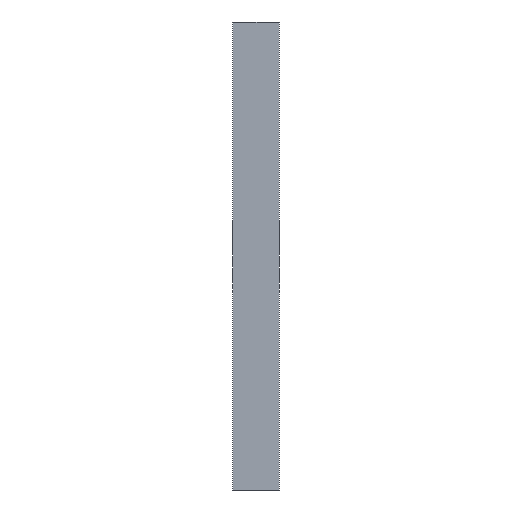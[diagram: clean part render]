
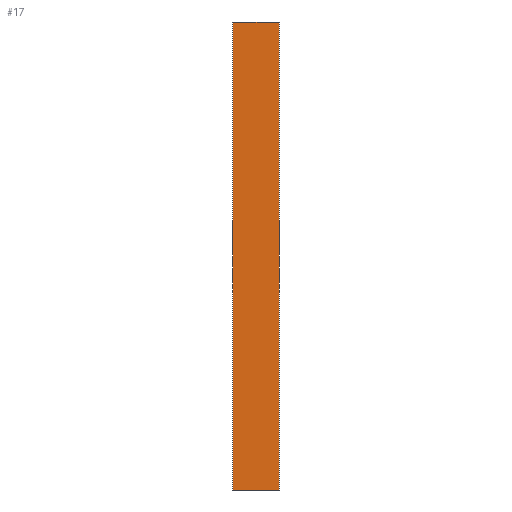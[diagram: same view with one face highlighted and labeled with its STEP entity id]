
A CAD part, left-side view. The second image highlights one B-rep face of the part: STEP entity #17.
In plain terms, the highlighted planar face has unit normal (-1, 0, 0).
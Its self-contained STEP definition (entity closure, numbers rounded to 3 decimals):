
#17 = ADVANCED_FACE('',(#18),#32,.F.);
#18 = FACE_BOUND('',#19,.F.);
#19 = EDGE_LOOP('',(#20,#55,#83,#111));
#20 = ORIENTED_EDGE('',*,*,#21,.F.);
#21 = EDGE_CURVE('',#22,#24,#26,.T.);
#22 = VERTEX_POINT('',#23);
#23 = CARTESIAN_POINT('',(-250.,62.,95.));
#24 = VERTEX_POINT('',#25);
#25 = CARTESIAN_POINT('',(-250.,62.,125.));
#26 = SURFACE_CURVE('',#27,(#31,#43),.PCURVE_S1.);
#27 = LINE('',#28,#29);
#28 = CARTESIAN_POINT('',(-250.,62.,95.));
#29 = VECTOR('',#30,1.);
#30 = DIRECTION('',(0.,0.,1.));
#31 = PCURVE('',#32,#37);
#32 = PLANE('',#33);
#33 = AXIS2_PLACEMENT_3D('',#34,#35,#36);
#34 = CARTESIAN_POINT('',(-250.,62.,95.));
#35 = DIRECTION('',(1.,0.,0.));
#36 = DIRECTION('',(0.,0.,1.));
#37 = DEFINITIONAL_REPRESENTATION('',(#38),#42);
#38 = LINE('',#39,#40);
#39 = CARTESIAN_POINT('',(0.,0.));
#40 = VECTOR('',#41,1.);
#41 = DIRECTION('',(1.,0.));
#42 = ( GEOMETRIC_REPRESENTATION_CONTEXT(2) 
PARAMETRIC_REPRESENTATION_CONTEXT() REPRESENTATION_CONTEXT('2D SPACE',''
  ) );
#43 = PCURVE('',#44,#49);
#44 = PLANE('',#45);
#45 = AXIS2_PLACEMENT_3D('',#46,#47,#48);
#46 = CARTESIAN_POINT('',(-250.,62.,95.));
#47 = DIRECTION('',(0.,1.,0.));
#48 = DIRECTION('',(0.,0.,1.));
#49 = DEFINITIONAL_REPRESENTATION('',(#50),#54);
#50 = LINE('',#51,#52);
#51 = CARTESIAN_POINT('',(0.,0.));
#52 = VECTOR('',#53,1.);
#53 = DIRECTION('',(1.,0.));
#54 = ( GEOMETRIC_REPRESENTATION_CONTEXT(2) 
PARAMETRIC_REPRESENTATION_CONTEXT() REPRESENTATION_CONTEXT('2D SPACE',''
  ) );
#55 = ORIENTED_EDGE('',*,*,#56,.T.);
#56 = EDGE_CURVE('',#22,#57,#59,.T.);
#57 = VERTEX_POINT('',#58);
#58 = CARTESIAN_POINT('',(-250.,65.,95.));
#59 = SURFACE_CURVE('',#60,(#64,#71),.PCURVE_S1.);
#60 = LINE('',#61,#62);
#61 = CARTESIAN_POINT('',(-250.,62.,95.));
#62 = VECTOR('',#63,1.);
#63 = DIRECTION('',(0.,1.,0.));
#64 = PCURVE('',#32,#65);
#65 = DEFINITIONAL_REPRESENTATION('',(#66),#70);
#66 = LINE('',#67,#68);
#67 = CARTESIAN_POINT('',(0.,0.));
#68 = VECTOR('',#69,1.);
#69 = DIRECTION('',(0.,-1.));
#70 = ( GEOMETRIC_REPRESENTATION_CONTEXT(2) 
PARAMETRIC_REPRESENTATION_CONTEXT() REPRESENTATION_CONTEXT('2D SPACE',''
  ) );
#71 = PCURVE('',#72,#77);
#72 = PLANE('',#73);
#73 = AXIS2_PLACEMENT_3D('',#74,#75,#76);
#74 = CARTESIAN_POINT('',(-250.,62.,95.));
#75 = DIRECTION('',(0.,0.,1.));
#76 = DIRECTION('',(1.,0.,0.));
#77 = DEFINITIONAL_REPRESENTATION('',(#78),#82);
#78 = LINE('',#79,#80);
#79 = CARTESIAN_POINT('',(0.,0.));
#80 = VECTOR('',#81,1.);
#81 = DIRECTION('',(0.,1.));
#82 = ( GEOMETRIC_REPRESENTATION_CONTEXT(2) 
PARAMETRIC_REPRESENTATION_CONTEXT() REPRESENTATION_CONTEXT('2D SPACE',''
  ) );
#83 = ORIENTED_EDGE('',*,*,#84,.T.);
#84 = EDGE_CURVE('',#57,#85,#87,.T.);
#85 = VERTEX_POINT('',#86);
#86 = CARTESIAN_POINT('',(-250.,65.,125.));
#87 = SURFACE_CURVE('',#88,(#92,#99),.PCURVE_S1.);
#88 = LINE('',#89,#90);
#89 = CARTESIAN_POINT('',(-250.,65.,95.));
#90 = VECTOR('',#91,1.);
#91 = DIRECTION('',(0.,0.,1.));
#92 = PCURVE('',#32,#93);
#93 = DEFINITIONAL_REPRESENTATION('',(#94),#98);
#94 = LINE('',#95,#96);
#95 = CARTESIAN_POINT('',(0.,-3.));
#96 = VECTOR('',#97,1.);
#97 = DIRECTION('',(1.,0.));
#98 = ( GEOMETRIC_REPRESENTATION_CONTEXT(2) 
PARAMETRIC_REPRESENTATION_CONTEXT() REPRESENTATION_CONTEXT('2D SPACE',''
  ) );
#99 = PCURVE('',#100,#105);
#100 = PLANE('',#101);
#101 = AXIS2_PLACEMENT_3D('',#102,#103,#104);
#102 = CARTESIAN_POINT('',(-250.,65.,95.));
#103 = DIRECTION('',(0.,1.,0.));
#104 = DIRECTION('',(0.,0.,1.));
#105 = DEFINITIONAL_REPRESENTATION('',(#106),#110);
#106 = LINE('',#107,#108);
#107 = CARTESIAN_POINT('',(0.,0.));
#108 = VECTOR('',#109,1.);
#109 = DIRECTION('',(1.,0.));
#110 = ( GEOMETRIC_REPRESENTATION_CONTEXT(2) 
PARAMETRIC_REPRESENTATION_CONTEXT() REPRESENTATION_CONTEXT('2D SPACE',''
  ) );
#111 = ORIENTED_EDGE('',*,*,#112,.F.);
#112 = EDGE_CURVE('',#24,#85,#113,.T.);
#113 = SURFACE_CURVE('',#114,(#118,#125),.PCURVE_S1.);
#114 = LINE('',#115,#116);
#115 = CARTESIAN_POINT('',(-250.,62.,125.));
#116 = VECTOR('',#117,1.);
#117 = DIRECTION('',(0.,1.,0.));
#118 = PCURVE('',#32,#119);
#119 = DEFINITIONAL_REPRESENTATION('',(#120),#124);
#120 = LINE('',#121,#122);
#121 = CARTESIAN_POINT('',(30.,0.));
#122 = VECTOR('',#123,1.);
#123 = DIRECTION('',(0.,-1.));
#124 = ( GEOMETRIC_REPRESENTATION_CONTEXT(2) 
PARAMETRIC_REPRESENTATION_CONTEXT() REPRESENTATION_CONTEXT('2D SPACE',''
  ) );
#125 = PCURVE('',#126,#131);
#126 = PLANE('',#127);
#127 = AXIS2_PLACEMENT_3D('',#128,#129,#130);
#128 = CARTESIAN_POINT('',(-250.,62.,125.));
#129 = DIRECTION('',(0.,0.,1.));
#130 = DIRECTION('',(1.,0.,0.));
#131 = DEFINITIONAL_REPRESENTATION('',(#132),#136);
#132 = LINE('',#133,#134);
#133 = CARTESIAN_POINT('',(0.,0.));
#134 = VECTOR('',#135,1.);
#135 = DIRECTION('',(0.,1.));
#136 = ( GEOMETRIC_REPRESENTATION_CONTEXT(2) 
PARAMETRIC_REPRESENTATION_CONTEXT() REPRESENTATION_CONTEXT('2D SPACE',''
  ) );
